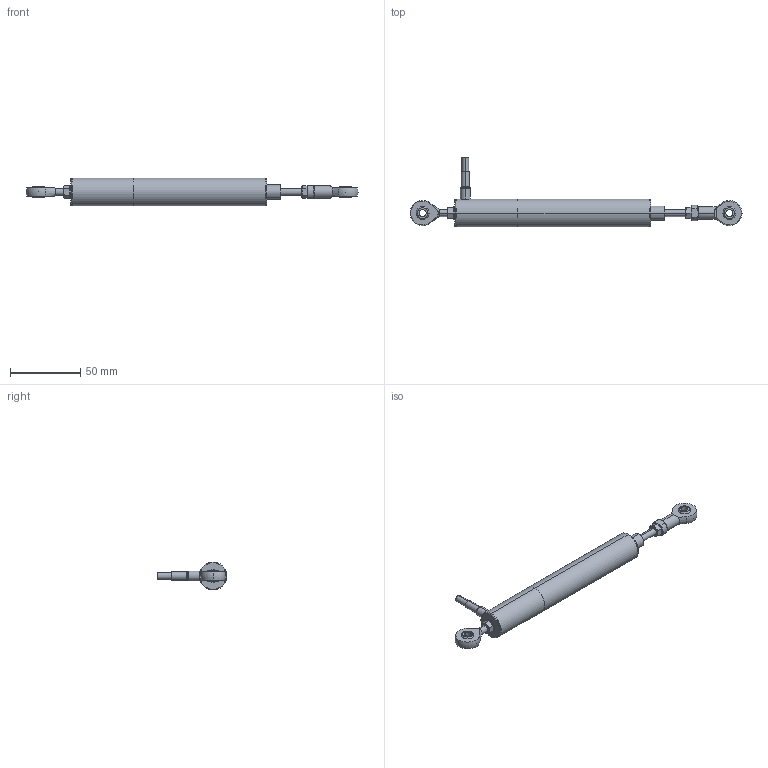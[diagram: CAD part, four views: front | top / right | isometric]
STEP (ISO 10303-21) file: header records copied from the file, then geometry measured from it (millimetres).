
FILE_DESCRIPTION (( 'STEP AP214' ), '1' );
FILE_NAME ('Wegsensor LVDT-ISDG-20-K.STEP', '2018-11-12T13:30:36', ( '' ), ( '' ), 'SwSTEP 2.0', 'SolidWorks 2015', '' );
FILE_SCHEMA (( 'AUTOMOTIVE_DESIGN' ));
Length unit declared in the file: millimetre
Products named in the file (1): Wegsensor LVDT-ISDG-20-K
Bounding box: 237 x 49.95 x 19.9 mm (x, y, z)
Volume: 50246.1 mm3; surface area: 15864.5 mm2
Topology: 7 solids, 7 shells, 134 faces, 290 edges, 176 vertices
Faces by surface type: plane 42, cone 42, cylinder 34, sphere 12, torus 4
Entity records: 4135 total; most frequent: CARTESIAN_POINT 969, DIRECTION 628, ORIENTED_EDGE 556, AXIS2_PLACEMENT_3D 281, EDGE_CURVE 278, VERTEX_POINT 168, EDGE_LOOP 150, CIRCLE 146
